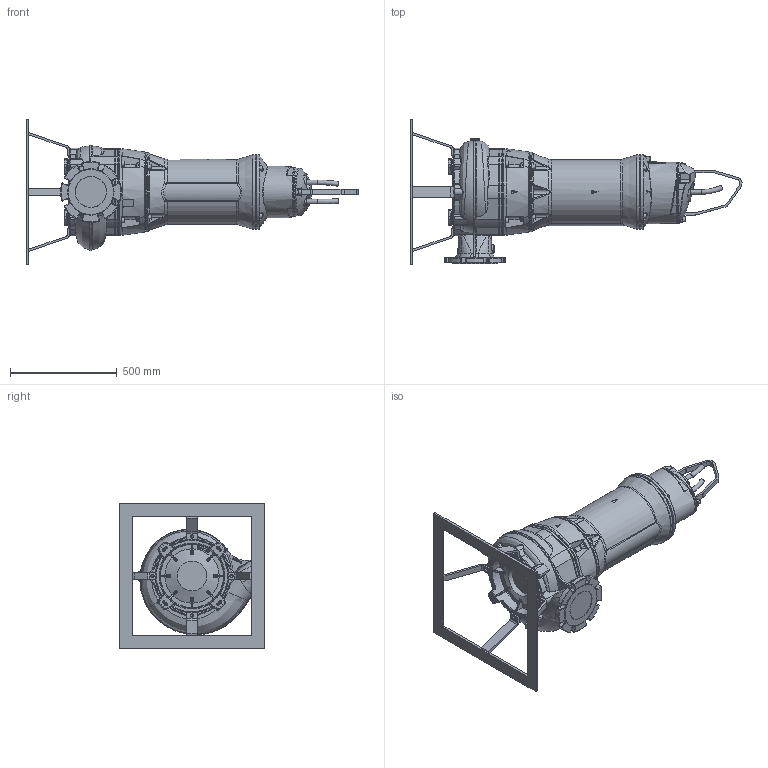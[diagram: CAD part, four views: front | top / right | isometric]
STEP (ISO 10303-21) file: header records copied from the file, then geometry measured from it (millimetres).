
FILE_DESCRIPTION (( 'STEP AP203' ), '1' );
FILE_NAME ('PE3.5 150G CP Transportable.STEP', '2018-08-16T10:42:37', ( '' ), ( '' ), 'SwSTEP 2.0', 'SolidWorks 2017', '' );
FILE_SCHEMA (( 'CONFIG_CONTROL_DESIGN' ));
Products named in the file (2): PE3.5 150G CP Transportable
Bounding box: 1554.9 x 682 x 682 mm (x, y, z)
Volume: 109534072.9 mm3; surface area: 3857254.8 mm2
Topology: 31 solids, 31 shells, 2924 faces, 6837 edges, 3967 vertices
Faces by surface type: cylinder 929, bspline 883, plane 650, torus 342, cone 77, sphere 43
Full cylindrical faces by diameter (mm): 2.9 x4, 5 x2, 6 x2, 6.8 x7, 8 x7, 9 x7, 10 x6, 10.2 x12, 10.5 x1, 11 x5, 12 x21, 13 x12, 14 x8, 15 x5, 16 x16, 17 x6, 18 x22, 18.63 x1, 20 x5, 22 x2, 24 x6, 26 x6, 38 x2, 40 x2, 139.135 x1, 200 x2, 212 x1, 273 x2, 277 x2, 310.4 x1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
Entity records: 135889 total; most frequent: CARTESIAN_POINT 78118, ORIENTED_EDGE 12656, DIRECTION 10574, EDGE_CURVE 6328, AXIS2_PLACEMENT_3D 4335, VERTEX_POINT 3876, EDGE_LOOP 3428, FACE_OUTER_BOUND 3166
